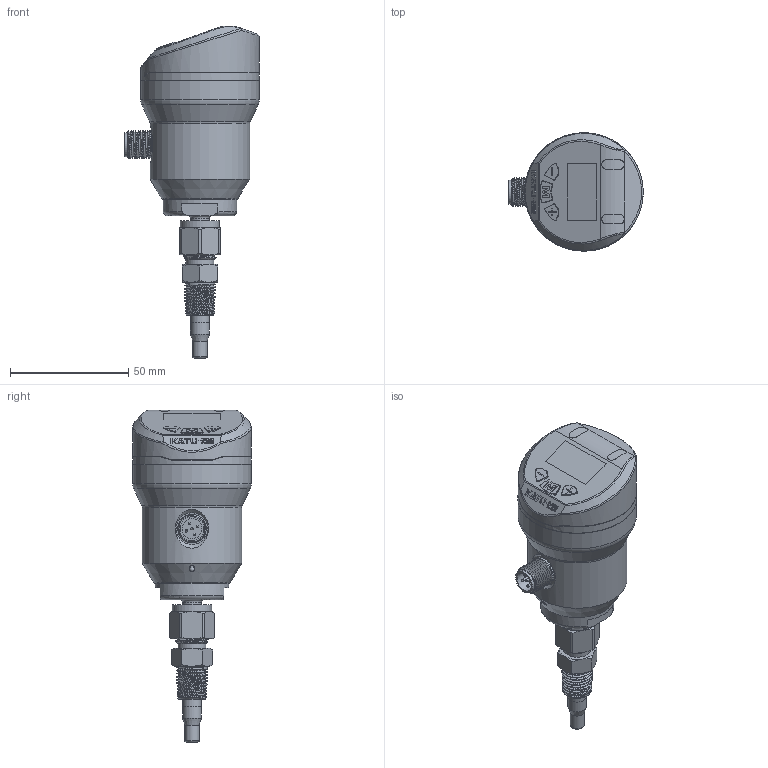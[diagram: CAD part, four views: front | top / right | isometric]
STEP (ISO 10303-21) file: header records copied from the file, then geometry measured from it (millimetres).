
FILE_DESCRIPTION( (''), '2;1');
FILE_NAME( 'QEKE_GL60_R1-4_compression-fitting.step', '2026-06-25T11:26:50+08:00', (''), (''), '', '', '');
FILE_SCHEMA (('AP203_CONFIGURATION_CONTROLLED_3D_DESIGN_OF_MECHANICAL_PARTS_AND_ASSEMBLIES_MIM_LF { 1 0 10303 403 2 1 2}'));
Length unit declared in the file: millimetre
Products named in the file (1): QEKE GL60_R1-4_compression-fitting
Bounding box: 56.7 x 50 x 140.09 mm (x, y, z)
Volume: 94408.6 mm3; surface area: 39010.7 mm2
Topology: 12 solids, 12 shells, 632 faces, 1573 edges, 1013 vertices
Faces by surface type: plane 331, cylinder 146, cone 63, bspline 50, torus 31, sphere 11
Full cylindrical faces by diameter (mm): 1 x10, 2.5 x1, 2.7 x5, 3.1 x1, 3.5 x2, 6 x2, 6.5 x1, 7 x1, 8 x2, 8.2 x1, 8.3 x1, 8.4 x1, 9.7 x1, 9.8 x1, 10.1 x1, 11 x1, 11.6 x1, 11.8 x1, 12 x1, 16.5 x1, 23 x3, 26.1 x5, 31 x1, 42 x1, 48 x1, 50 x3
Entity records: 25628 total; most frequent: CARTESIAN_POINT 10629, ORIENTED_EDGE 2862, DIRECTION 2805, EDGE_CURVE 1431, AXIS2_PLACEMENT_3D 1022, VERTEX_POINT 961, EDGE_LOOP 786, LINE 761
